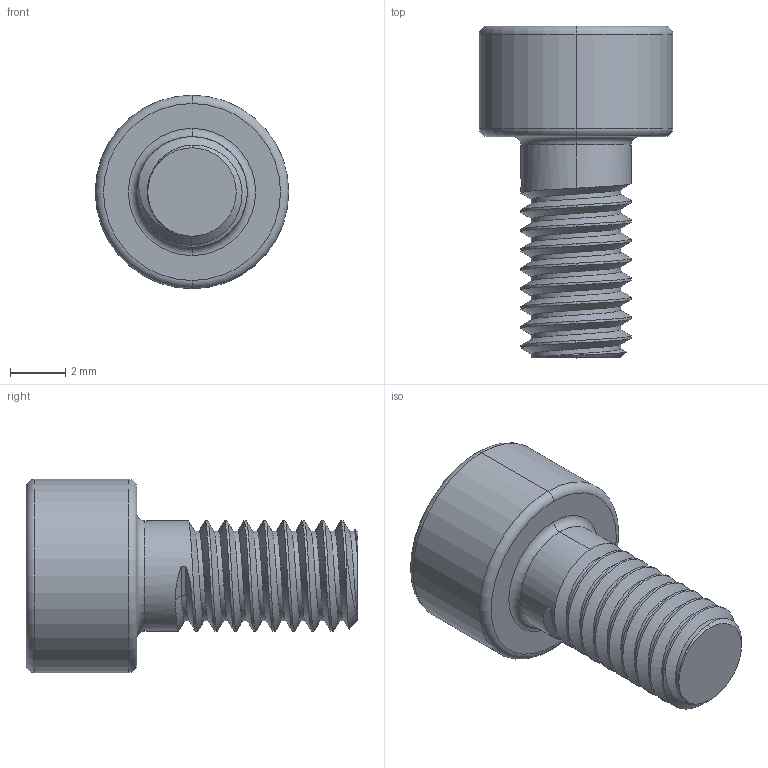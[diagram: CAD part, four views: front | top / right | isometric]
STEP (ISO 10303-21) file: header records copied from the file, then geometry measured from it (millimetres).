
FILE_DESCRIPTION (( 'STEP AP214' ), '1' );
FILE_NAME ('Âèíò Ì4õ8 DIN912.STEP', '2021-03-26T07:23:04', ( 'Home' ), ( '' ), 'SwSTEP 2.0', 'SolidWorks 2020', '' );
FILE_SCHEMA (( 'AUTOMOTIVE_DESIGN' ));
Length unit declared in the file: millimetre
Products named in the file (1): 妈眚 󊅠 DIN912
Bounding box: 7 x 12 x 7 mm (x, y, z)
Volume: 212.5 mm3; surface area: 321.3 mm2
Topology: 1 solids, 1 shells, 57 faces, 142 edges, 87 vertices
Faces by surface type: cylinder 26, plane 18, torus 6, cone 4, bspline 3
Entity records: 2951 total; most frequent: CARTESIAN_POINT 1719, ORIENTED_EDGE 280, DIRECTION 224, EDGE_CURVE 140, VERTEX_POINT 87, AXIS2_PLACEMENT_3D 84, EDGE_LOOP 59, FACE_OUTER_BOUND 57
